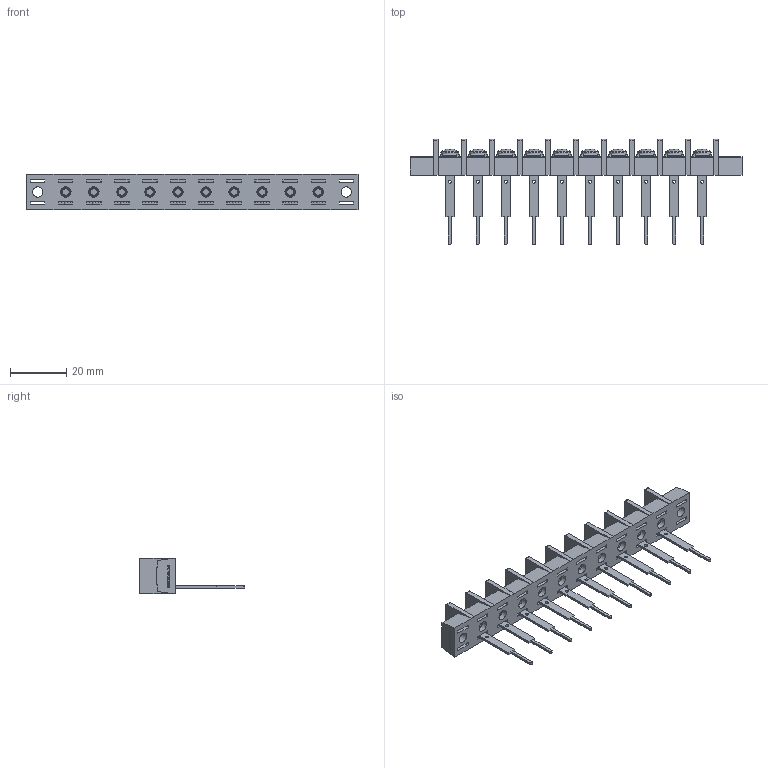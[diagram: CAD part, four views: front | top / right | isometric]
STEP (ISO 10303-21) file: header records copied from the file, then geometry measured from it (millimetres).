
FILE_DESCRIPTION(/* description */ ('Alibre Inc.'),/* implementation_level */ '2;1');
FILE_NAME(/* name */ 'export0',/* time_stamp */ '2015-10-22T20:30:33+09:00',/* author */ (''),/* organization */ (''),/* preprocessor_version */ 'ST-DEVELOPER v14',/* originating_system */ 'Alibre',/* authorisation */ '');
FILE_SCHEMA (('CONFIG_CONTROL_DESIGN'));
Length unit declared in the file: centimetre
Products named in the file (1): ID_1
Bounding box: 118.4 x 37.5 x 12.8 mm (x, y, z)
Volume: 10825 mm3; surface area: 13418.4 mm2
Topology: 1 solids, 171 shells, 3272 faces, 8412 edges, 5564 vertices
Faces by surface type: plane 2452, bspline 624, cylinder 116, cone 50, torus 20, sphere 10
Full cylindrical faces by diameter (mm): 1.1 x10, 3 x20, 3.7 x12, 4.6 x12, 6.3 x10
Entity records: 94613 total; most frequent: CARTESIAN_POINT 22737, ORIENTED_EDGE 16592, DIRECTION 9976, EDGE_CURVE 8296, VECTOR 6384, LINE 6384, VERTEX_POINT 5542, EDGE_LOOP 3620
